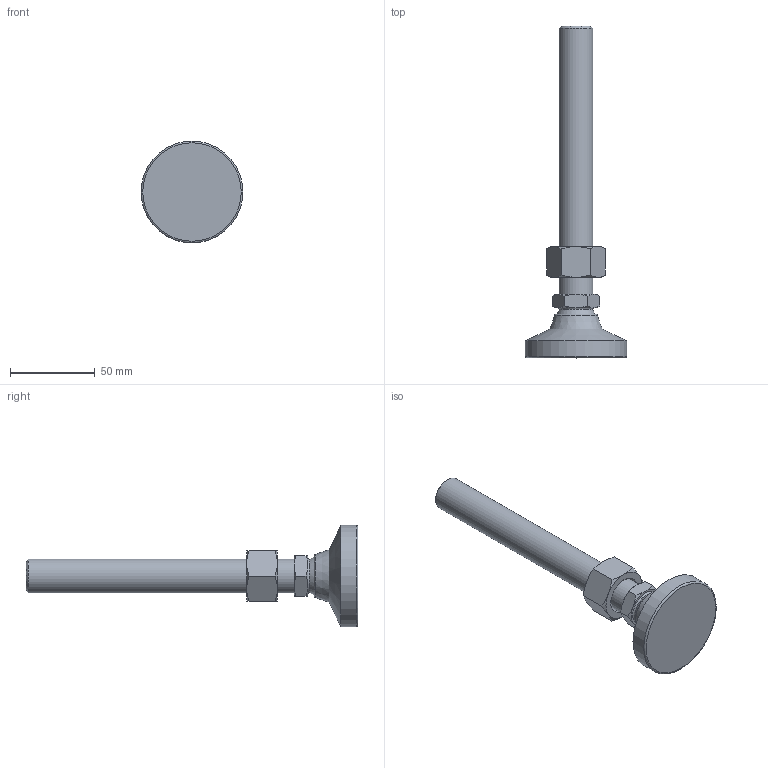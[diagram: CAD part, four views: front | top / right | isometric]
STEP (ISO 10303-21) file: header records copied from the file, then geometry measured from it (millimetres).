
FILE_DESCRIPTION( ( 'STEP AP214' ), ' ' );
FILE_NAME( 'O:/ganter_2015/teil_2/2_5/gn343_2/gn343_2_kr/Levelling foot with threaded stud GN 343.2-60-M20-158-KR-(0).stp', '2015-10-26T09:14:43', ( '' ), ( '' ), ' ', 'PARTsolutions', ' ' );
FILE_SCHEMA( ( 'AUTOMOTIVE_DESIGN { 1 0 10303 214 1 1 1 1 }' ) );
Length unit declared in the file: millimetre
Products named in the file (4): Levelling foot with threaded stud GN 343.2-60-M20-158-KR-(0); _Levelling foot with threaded stud GN 343.2-60-M20-158-KR-(0)_foot; _Levelling foot with threaded stud GN 343.2-60-M20-158-KR-(0)_screw; _Levelling foot with threaded stud GN 343.2-60-M20-158-KR-(0)_nut
Assembly tree (3 placements, depth 2):
  Levelling foot with threaded stud GN 343.2-60-M20-158-KR-(0)
    _Levelling foot with threaded stud GN 343.2-60-M20-158-KR-(0)_foot
    _Levelling foot with threaded stud GN 343.2-60-M20-158-KR-(0)_screw
    _Levelling foot with threaded stud GN 343.2-60-M20-158-KR-(0)_nut
Bounding box: 60 x 195.5 x 60 mm (x, y, z)
Volume: 109757.1 mm3; surface area: 25301.2 mm2
Topology: 3 solids, 3 shells, 56 faces, 117 edges, 68 vertices
Faces by surface type: cone 29, plane 19, torus 3, cylinder 3, sphere 2
Full cylindrical faces by diameter (mm): 17.294 x1, 20 x1, 60 x1
Entity records: 2090 total; most frequent: CARTESIAN_POINT 522, DIRECTION 212, ORIENTED_EDGE 200, AXIS2_PLACEMENT_3D 100, EDGE_CURVE 100, EDGE_LOOP 72, VERTEX_POINT 66, FACE_OUTER_BOUND 62
